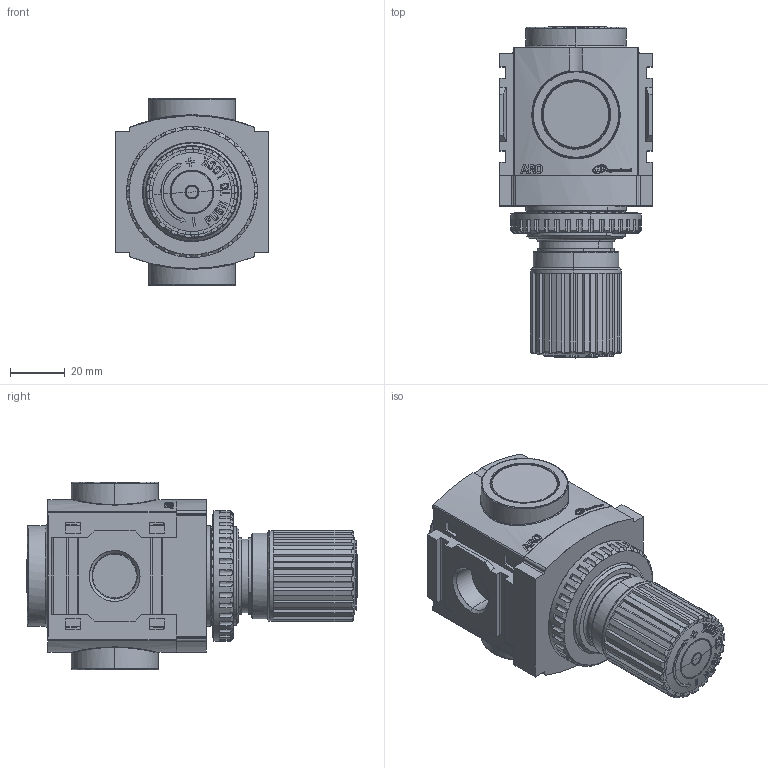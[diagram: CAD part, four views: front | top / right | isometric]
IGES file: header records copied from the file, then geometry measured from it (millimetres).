
Global section: file name: C:\Documents and Settings\szeedyk\Desktop\R372X1-XXX_01.igs; native system: NX V4.0; preprocessor: UGS NX IGES V4.0; date: 20090203.145519; units: inch
Bounding box: 56 x 121.7 x 68.7 mm (x, y, z)
Surface area: 33553.5 mm2 (no closed solid volume)
Topology: 0 solids, 0 shells, 1656 faces, 9691 edges, 9688 vertices
Faces by surface type: bspline 1656
